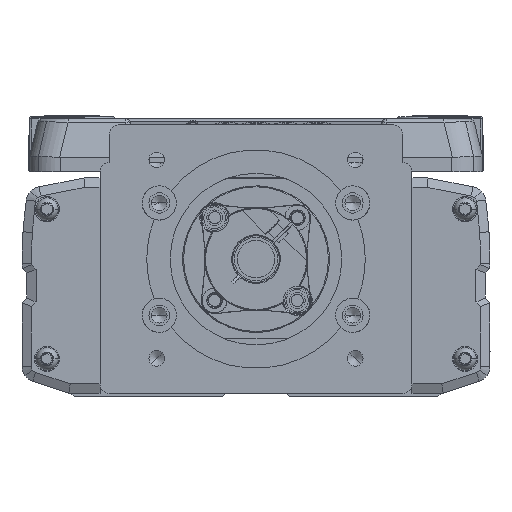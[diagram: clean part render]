
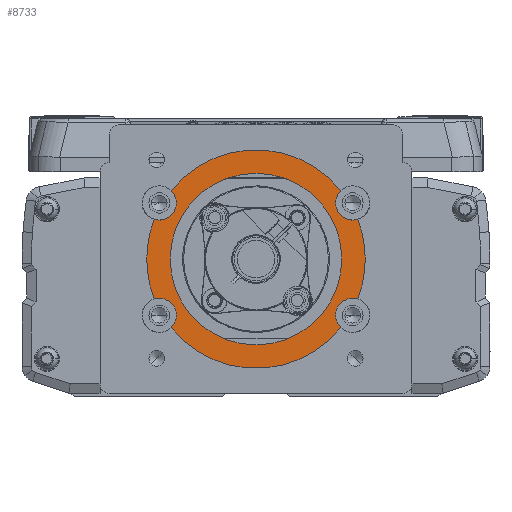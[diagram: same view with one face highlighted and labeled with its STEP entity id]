
A CAD part, left-side view. The second image highlights one B-rep face of the part: STEP entity #8733.
In plain terms, the highlighted planar face has unit normal (-1, 0, 0).
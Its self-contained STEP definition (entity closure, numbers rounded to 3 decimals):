
#8733=ADVANCED_FACE('',(#18148,#18149),#18150,.F.);
#18148=FACE_OUTER_BOUND('',#29911,.T.);
#18149=FACE_BOUND('',#29912,.T.);
#18150=PLANE('',#29913);
#29911=EDGE_LOOP('',(#54507,#54508,#54509,#54510,#54511,#54512,#54513,#54514,#54515,#54516,#54517,#54518,#54519,#54520));
#29912=EDGE_LOOP('',(#54521,#54522));
#29913=AXIS2_PLACEMENT_3D('',#54523,#54524,#54525);
#54507=ORIENTED_EDGE('',*,*,#67265,.F.);
#54508=ORIENTED_EDGE('',*,*,#70469,.T.);
#54509=ORIENTED_EDGE('',*,*,#61228,.T.);
#54510=ORIENTED_EDGE('',*,*,#69241,.F.);
#54511=ORIENTED_EDGE('',*,*,#66727,.F.);
#54512=ORIENTED_EDGE('',*,*,#70755,.T.);
#54513=ORIENTED_EDGE('',*,*,#70531,.F.);
#54514=ORIENTED_EDGE('',*,*,#66451,.F.);
#54515=ORIENTED_EDGE('',*,*,#67519,.T.);
#54516=ORIENTED_EDGE('',*,*,#64993,.T.);
#54517=ORIENTED_EDGE('',*,*,#64602,.F.);
#54518=ORIENTED_EDGE('',*,*,#69741,.F.);
#54519=ORIENTED_EDGE('',*,*,#61183,.T.);
#54520=ORIENTED_EDGE('',*,*,#69156,.F.);
#54521=ORIENTED_EDGE('',*,*,#69467,.F.);
#54522=ORIENTED_EDGE('',*,*,#69779,.F.);
#54523=CARTESIAN_POINT('',(-69.,0.,0.));
#54524=DIRECTION('',(1.0,0.,0.));
#54525=DIRECTION('',(0.,1.0,0.));
#61183=EDGE_CURVE('',#72637,#72634,#72638,.T.);
#61228=EDGE_CURVE('',#72710,#72715,#72717,.T.);
#64602=EDGE_CURVE('',#78485,#78487,#78488,.T.);
#64993=EDGE_CURVE('',#79092,#78487,#79094,.T.);
#66451=EDGE_CURVE('',#81356,#81358,#81359,.T.);
#66727=EDGE_CURVE('',#81758,#81760,#81761,.T.);
#67265=EDGE_CURVE('',#82542,#82544,#82545,.T.);
#67519=EDGE_CURVE('',#81356,#79092,#82910,.T.);
#69156=EDGE_CURVE('',#82544,#72634,#85075,.T.);
#69241=EDGE_CURVE('',#81760,#72715,#85182,.T.);
#69467=EDGE_CURVE('',#85457,#85455,#85459,.T.);
#69741=EDGE_CURVE('',#72637,#78485,#85804,.T.);
#69779=EDGE_CURVE('',#85455,#85457,#85851,.T.);
#70469=EDGE_CURVE('',#82542,#72710,#86678,.T.);
#70531=EDGE_CURVE('',#81358,#86747,#86748,.T.);
#70755=EDGE_CURVE('',#81758,#86747,#87006,.T.);
#72634=VERTEX_POINT('',#89213);
#72637=VERTEX_POINT('',#89217);
#72638=CIRCLE('',#89218,35.0);
#72710=VERTEX_POINT('',#89313);
#72715=VERTEX_POINT('',#89319);
#72717=CIRCLE('',#89322,35.0);
#78485=VERTEX_POINT('',#97298);
#78487=VERTEX_POINT('',#97301);
#78488=CIRCLE('',#97302,5.5);
#79092=VERTEX_POINT('',#98167);
#79094=CIRCLE('',#98170,35.0);
#81356=VERTEX_POINT('',#102097);
#81358=VERTEX_POINT('',#102100);
#81359=CIRCLE('',#102101,5.5);
#81758=VERTEX_POINT('',#102658);
#81760=VERTEX_POINT('',#102661);
#81761=CIRCLE('',#102662,5.5);
#82542=VERTEX_POINT('',#103930);
#82544=VERTEX_POINT('',#103933);
#82545=CIRCLE('',#103934,5.5);
#82910=CIRCLE('',#104399,35.0);
#85075=CIRCLE('',#107585,5.5);
#85182=CIRCLE('',#107708,5.5);
#85455=VERTEX_POINT('',#108078);
#85457=VERTEX_POINT('',#108081);
#85459=CIRCLE('',#108084,27.5);
#85804=CIRCLE('',#108643,5.5);
#85851=CIRCLE('',#108701,27.5);
#86678=CIRCLE('',#109807,35.0);
#86747=VERTEX_POINT('',#109926);
#86748=CIRCLE('',#109927,5.5);
#87006=CIRCLE('',#110303,35.0);
#89213=CARTESIAN_POINT('',(-69.,27.223,21.998));
#89217=CARTESIAN_POINT('',(-69.,-27.223,21.998));
#89218=AXIS2_PLACEMENT_3D('',#112581,#112582,#112583);
#89313=CARTESIAN_POINT('',(-69.,35.,0.));
#89319=CARTESIAN_POINT('',(-69.,32.6,-12.738));
#89322=AXIS2_PLACEMENT_3D('',#112639,#112640,#112641);
#97298=CARTESIAN_POINT('',(-69.,-25.5,18.));
#97301=CARTESIAN_POINT('',(-69.,-32.6,12.738));
#97302=AXIS2_PLACEMENT_3D('',#117886,#117887,#117888);
#98167=CARTESIAN_POINT('',(-69.,-35.,0.));
#98170=AXIS2_PLACEMENT_3D('',#118415,#118416,#118417);
#102097=CARTESIAN_POINT('',(-69.,-32.6,-12.738));
#102100=CARTESIAN_POINT('',(-69.,-25.5,-18.));
#102101=AXIS2_PLACEMENT_3D('',#120547,#120548,#120549);
#102658=CARTESIAN_POINT('',(-69.,27.223,-21.998));
#102661=CARTESIAN_POINT('',(-69.,25.5,-18.));
#102662=AXIS2_PLACEMENT_3D('',#120920,#120921,#120922);
#103930=CARTESIAN_POINT('',(-69.,32.6,12.738));
#103933=CARTESIAN_POINT('',(-69.,25.5,18.));
#103934=AXIS2_PLACEMENT_3D('',#121624,#121625,#121626);
#104399=AXIS2_PLACEMENT_3D('',#121979,#121980,#121981);
#107585=AXIS2_PLACEMENT_3D('',#124166,#124167,#124168);
#107708=AXIS2_PLACEMENT_3D('',#124296,#124297,#124298);
#108078=CARTESIAN_POINT('',(-69.,27.5,0.));
#108081=CARTESIAN_POINT('',(-69.,-27.5,0.));
#108084=AXIS2_PLACEMENT_3D('',#124573,#124574,#124575);
#108643=AXIS2_PLACEMENT_3D('',#124916,#124917,#124918);
#108701=AXIS2_PLACEMENT_3D('',#124963,#124964,#124965);
#109807=AXIS2_PLACEMENT_3D('',#125753,#125754,#125755);
#109926=CARTESIAN_POINT('',(-69.,-27.223,-21.998));
#109927=AXIS2_PLACEMENT_3D('',#125831,#125832,#125833);
#110303=AXIS2_PLACEMENT_3D('',#126037,#126038,#126039);
#112581=CARTESIAN_POINT('',(-69.,0.,0.));
#112582=DIRECTION('',(-1.0,0.,0.));
#112583=DIRECTION('',(0.,1.0,0.));
#112639=CARTESIAN_POINT('',(-69.,0.,0.));
#112640=DIRECTION('',(-1.0,0.,0.));
#112641=DIRECTION('',(0.,1.0,0.));
#117886=CARTESIAN_POINT('',(-69.,-31.,18.));
#117887=DIRECTION('',(-1.0,0.,0.));
#117888=DIRECTION('',(0.,-1.0,0.));
#118415=CARTESIAN_POINT('',(-69.,0.,0.));
#118416=DIRECTION('',(-1.0,0.,0.));
#118417=DIRECTION('',(0.,1.0,0.));
#120547=CARTESIAN_POINT('',(-69.,-31.,-18.));
#120548=DIRECTION('',(-1.0,0.,0.));
#120549=DIRECTION('',(0.,-1.0,0.));
#120920=CARTESIAN_POINT('',(-69.,31.,-18.));
#120921=DIRECTION('',(-1.0,0.,0.));
#120922=DIRECTION('',(0.,1.0,0.));
#121624=CARTESIAN_POINT('',(-69.,31.,18.));
#121625=DIRECTION('',(-1.0,0.,0.));
#121626=DIRECTION('',(0.,1.0,0.));
#121979=CARTESIAN_POINT('',(-69.,0.,0.));
#121980=DIRECTION('',(-1.0,0.,0.));
#121981=DIRECTION('',(0.,1.0,0.));
#124166=CARTESIAN_POINT('',(-69.,31.,18.));
#124167=DIRECTION('',(-1.0,0.,0.));
#124168=DIRECTION('',(0.,1.0,0.));
#124296=CARTESIAN_POINT('',(-69.,31.,-18.));
#124297=DIRECTION('',(-1.0,0.,0.));
#124298=DIRECTION('',(0.,1.0,0.));
#124573=CARTESIAN_POINT('',(-69.,0.,0.));
#124574=DIRECTION('',(-1.0,0.,0.));
#124575=DIRECTION('',(0.,1.0,0.));
#124916=CARTESIAN_POINT('',(-69.,-31.,18.));
#124917=DIRECTION('',(-1.0,0.,0.));
#124918=DIRECTION('',(0.,-1.0,0.));
#124963=CARTESIAN_POINT('',(-69.,0.,0.));
#124964=DIRECTION('',(-1.0,0.,0.));
#124965=DIRECTION('',(0.,1.0,0.));
#125753=CARTESIAN_POINT('',(-69.,0.,0.));
#125754=DIRECTION('',(-1.0,0.,0.));
#125755=DIRECTION('',(0.,1.0,0.));
#125831=CARTESIAN_POINT('',(-69.,-31.,-18.));
#125832=DIRECTION('',(-1.0,0.,0.));
#125833=DIRECTION('',(0.,-1.0,0.));
#126037=CARTESIAN_POINT('',(-69.,0.,0.));
#126038=DIRECTION('',(-1.0,0.,0.));
#126039=DIRECTION('',(0.,1.0,0.));
